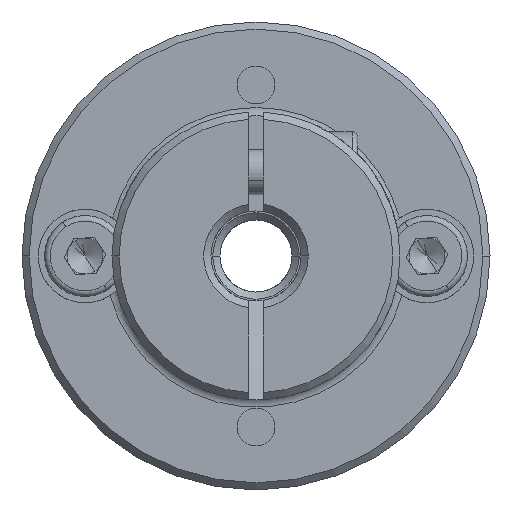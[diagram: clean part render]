
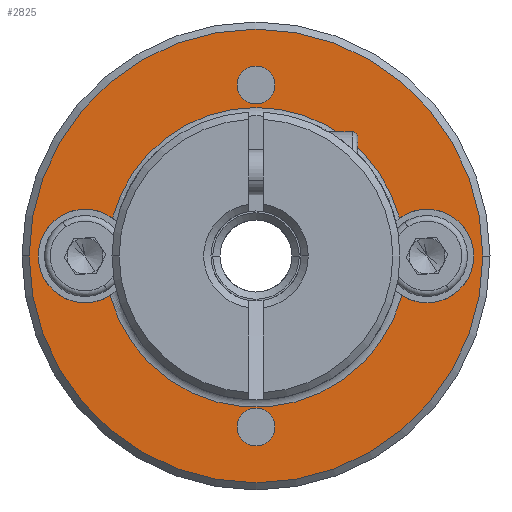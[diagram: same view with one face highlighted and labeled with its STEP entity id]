
A CAD part, front view. The second image highlights one B-rep face of the part: STEP entity #2825.
In plain terms, the highlighted planar face has unit normal (0, -1, 0).
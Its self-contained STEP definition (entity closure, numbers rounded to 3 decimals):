
#30 = ORIENTED_EDGE ( 'NONE', *, *, #3362, .T. ) ;
#54 = AXIS2_PLACEMENT_3D ( 'NONE', #17531, #11513, #8664 ) ;
#224 = CARTESIAN_POINT ( 'NONE',  ( -3.03, -8.355, 35.5 ) ) ;
#262 = CARTESIAN_POINT ( 'NONE',  ( -3.03, -8.355, 26. ) ) ;
#493 = DIRECTION ( 'NONE',  ( 1., 0., 0. ) ) ;
#526 = AXIS2_PLACEMENT_3D ( 'NONE', #262, #15209, #12058 ) ;
#640 = AXIS2_PLACEMENT_3D ( 'NONE', #12592, #17359, #14086 ) ;
#884 = VERTEX_POINT ( 'NONE', #6507 ) ;
#1531 = ORIENTED_EDGE ( 'NONE', *, *, #17809, .T. ) ;
#1580 = EDGE_LOOP ( 'NONE', ( #16222, #11632 ) ) ;
#1610 = ORIENTED_EDGE ( 'NONE', *, *, #15922, .T. ) ;
#1622 = ORIENTED_EDGE ( 'NONE', *, *, #11058, .T. ) ;
#1696 = DIRECTION ( 'NONE',  ( 0., 1., 0. ) ) ;
#2014 = CARTESIAN_POINT ( 'NONE',  ( 9.57, -8.355, 26. ) ) ;
#2025 = CIRCLE ( 'NONE', #54, 12.6 ) ;
#2134 = DIRECTION ( 'NONE',  ( 0., -1., 0. ) ) ;
#2212 = VERTEX_POINT ( 'NONE', #8005 ) ;
#2503 = FACE_BOUND ( 'NONE', #1580, .T. ) ;
#2734 = CARTESIAN_POINT ( 'NONE',  ( -3.03, -8.355, 26. ) ) ;
#2825 = ADVANCED_FACE ( 'NONE', ( #4862, #8827, #2503, #5321 ), #11609, .T. ) ;
#2955 = ORIENTED_EDGE ( 'NONE', *, *, #15836, .T. ) ;
#3352 = DIRECTION ( 'NONE',  ( 1., 0., 0. ) ) ;
#3362 = EDGE_CURVE ( 'NONE', #7028, #18003, #2025, .T. ) ;
#3623 = DIRECTION ( 'NONE',  ( 1., 0., 0. ) ) ;
#3739 = DIRECTION ( 'NONE',  ( 1., 0., 0. ) ) ;
#3756 = CARTESIAN_POINT ( 'NONE',  ( -3.03, -8.355, 16.5 ) ) ;
#4027 = CIRCLE ( 'NONE', #7335, 8.247 ) ;
#4164 = ORIENTED_EDGE ( 'NONE', *, *, #14730, .T. ) ;
#4496 = CIRCLE ( 'NONE', #8372, 2.6 ) ;
#4843 = CARTESIAN_POINT ( 'NONE',  ( -15.13, -8.355, 26. ) ) ;
#4862 = FACE_OUTER_BOUND ( 'NONE', #9758, .T. ) ;
#5107 = CIRCLE ( 'NONE', #17949, 2.6 ) ;
#5113 = EDGE_LOOP ( 'NONE', ( #18077, #9795 ) ) ;
#5321 = FACE_BOUND ( 'NONE', #5783, .T. ) ;
#5570 = CIRCLE ( 'NONE', #640, 1.05 ) ;
#5751 = DIRECTION ( 'NONE',  ( 1., 0., 0. ) ) ;
#5783 = EDGE_LOOP ( 'NONE', ( #19322, #1610, #1622, #2955, #1531, #4164 ) ) ;
#6100 = CARTESIAN_POINT ( 'NONE',  ( -4.08, -8.355, 35.5 ) ) ;
#6187 = VERTEX_POINT ( 'NONE', #18696 ) ;
#6305 = DIRECTION ( 'NONE',  ( 0., 1., 0. ) ) ;
#6507 = CARTESIAN_POINT ( 'NONE',  ( -11.138, -8.355, 23.804 ) ) ;
#6821 = AXIS2_PLACEMENT_3D ( 'NONE', #17333, #11132, #8403 ) ;
#6900 = VERTEX_POINT ( 'NONE', #9640 ) ;
#7028 = VERTEX_POINT ( 'NONE', #9957 ) ;
#7335 = AXIS2_PLACEMENT_3D ( 'NONE', #18411, #12636, #3739 ) ;
#7359 = EDGE_CURVE ( 'NONE', #13670, #16996, #12737, .T. ) ;
#7819 = DIRECTION ( 'NONE',  ( 1., 0., 0. ) ) ;
#8005 = CARTESIAN_POINT ( 'NONE',  ( -4.08, -8.355, 16.5 ) ) ;
#8203 = CARTESIAN_POINT ( 'NONE',  ( -3.03, -8.355, 26. ) ) ;
#8249 = DIRECTION ( 'NONE',  ( 0., 1., 0. ) ) ;
#8372 = AXIS2_PLACEMENT_3D ( 'NONE', #9000, #1696, #14995 ) ;
#8400 = VERTEX_POINT ( 'NONE', #12226 ) ;
#8403 = DIRECTION ( 'NONE',  ( 1., 0., 0. ) ) ;
#8487 = EDGE_CURVE ( 'NONE', #16996, #13670, #8757, .T. ) ;
#8664 = DIRECTION ( 'NONE',  ( 1., 0., 0. ) ) ;
#8757 = CIRCLE ( 'NONE', #6821, 1.05 ) ;
#8827 = FACE_BOUND ( 'NONE', #5113, .T. ) ;
#8921 = AXIS2_PLACEMENT_3D ( 'NONE', #2734, #14597, #5751 ) ;
#9000 = CARTESIAN_POINT ( 'NONE',  ( -12.53, -8.355, 26. ) ) ;
#9194 = AXIS2_PLACEMENT_3D ( 'NONE', #10731, #13776, #493 ) ;
#9221 = DIRECTION ( 'NONE',  ( 1., 0., 0. ) ) ;
#9443 = CARTESIAN_POINT ( 'NONE',  ( 5.078, -8.355, 23.804 ) ) ;
#9594 = CIRCLE ( 'NONE', #526, 8.4 ) ;
#9640 = CARTESIAN_POINT ( 'NONE',  ( -1.98, -8.355, 16.5 ) ) ;
#9758 = EDGE_LOOP ( 'NONE', ( #30, #12977 ) ) ;
#9795 = ORIENTED_EDGE ( 'NONE', *, *, #13373, .T. ) ;
#9957 = CARTESIAN_POINT ( 'NONE',  ( -15.63, -8.355, 26. ) ) ;
#9965 = VERTEX_POINT ( 'NONE', #9443 ) ;
#10053 = AXIS2_PLACEMENT_3D ( 'NONE', #8203, #2134, #3623 ) ;
#10731 = CARTESIAN_POINT ( 'NONE',  ( -12.53, -8.355, 26. ) ) ;
#11030 = AXIS2_PLACEMENT_3D ( 'NONE', #224, #6305, #9221 ) ;
#11058 = EDGE_CURVE ( 'NONE', #6187, #12556, #4027, .T. ) ;
#11132 = DIRECTION ( 'NONE',  ( 0., 1., 0. ) ) ;
#11311 = EDGE_CURVE ( 'NONE', #884, #13695, #4496, .T. ) ;
#11513 = DIRECTION ( 'NONE',  ( 0., -1., 0. ) ) ;
#11609 = PLANE ( 'NONE',  #8921 ) ;
#11632 = ORIENTED_EDGE ( 'NONE', *, *, #8487, .T. ) ;
#12058 = DIRECTION ( 'NONE',  ( 1., 0., 0. ) ) ;
#12226 = CARTESIAN_POINT ( 'NONE',  ( 9.07, -8.355, 26. ) ) ;
#12556 = VERTEX_POINT ( 'NONE', #17737 ) ;
#12592 = CARTESIAN_POINT ( 'NONE',  ( -3.03, -8.355, 16.5 ) ) ;
#12636 = DIRECTION ( 'NONE',  ( 0., 1., 0. ) ) ;
#12737 = CIRCLE ( 'NONE', #11030, 1.05 ) ;
#12977 = ORIENTED_EDGE ( 'NONE', *, *, #15434, .T. ) ;
#13161 = CIRCLE ( 'NONE', #13455, 1.05 ) ;
#13373 = EDGE_CURVE ( 'NONE', #6900, #2212, #5570, .T. ) ;
#13432 = CIRCLE ( 'NONE', #15593, 2.6 ) ;
#13455 = AXIS2_PLACEMENT_3D ( 'NONE', #3756, #8249, #18693 ) ;
#13670 = VERTEX_POINT ( 'NONE', #6100 ) ;
#13695 = VERTEX_POINT ( 'NONE', #4843 ) ;
#13743 = CARTESIAN_POINT ( 'NONE',  ( 6.47, -8.355, 26. ) ) ;
#13776 = DIRECTION ( 'NONE',  ( 0., 1., 0. ) ) ;
#14086 = DIRECTION ( 'NONE',  ( 1., 0., 0. ) ) ;
#14597 = DIRECTION ( 'NONE',  ( 0., -1., 0. ) ) ;
#14730 = EDGE_CURVE ( 'NONE', #9965, #884, #9594, .T. ) ;
#14995 = DIRECTION ( 'NONE',  ( 1., 0., 0. ) ) ;
#15209 = DIRECTION ( 'NONE',  ( 0., 1., 0. ) ) ;
#15434 = EDGE_CURVE ( 'NONE', #18003, #7028, #18196, .T. ) ;
#15593 = AXIS2_PLACEMENT_3D ( 'NONE', #13743, #18204, #7819 ) ;
#15836 = EDGE_CURVE ( 'NONE', #12556, #8400, #5107, .T. ) ;
#15922 = EDGE_CURVE ( 'NONE', #13695, #6187, #19121, .T. ) ;
#16222 = ORIENTED_EDGE ( 'NONE', *, *, #7359, .T. ) ;
#16568 = CARTESIAN_POINT ( 'NONE',  ( -1.98, -8.355, 35.5 ) ) ;
#16669 = DIRECTION ( 'NONE',  ( 0., 1., 0. ) ) ;
#16912 = CARTESIAN_POINT ( 'NONE',  ( 6.47, -8.355, 26. ) ) ;
#16996 = VERTEX_POINT ( 'NONE', #16568 ) ;
#17333 = CARTESIAN_POINT ( 'NONE',  ( -3.03, -8.355, 35.5 ) ) ;
#17359 = DIRECTION ( 'NONE',  ( 0., 1., 0. ) ) ;
#17531 = CARTESIAN_POINT ( 'NONE',  ( -3.03, -8.355, 26. ) ) ;
#17737 = CARTESIAN_POINT ( 'NONE',  ( 4.944, -8.355, 28.105 ) ) ;
#17809 = EDGE_CURVE ( 'NONE', #8400, #9965, #13432, .T. ) ;
#17949 = AXIS2_PLACEMENT_3D ( 'NONE', #16912, #16669, #3352 ) ;
#18003 = VERTEX_POINT ( 'NONE', #2014 ) ;
#18077 = ORIENTED_EDGE ( 'NONE', *, *, #18617, .T. ) ;
#18196 = CIRCLE ( 'NONE', #10053, 12.6 ) ;
#18204 = DIRECTION ( 'NONE',  ( 0., 1., 0. ) ) ;
#18411 = CARTESIAN_POINT ( 'NONE',  ( -3.03, -8.355, 26. ) ) ;
#18617 = EDGE_CURVE ( 'NONE', #2212, #6900, #13161, .T. ) ;
#18693 = DIRECTION ( 'NONE',  ( 1., 0., 0. ) ) ;
#18696 = CARTESIAN_POINT ( 'NONE',  ( -11.004, -8.355, 28.105 ) ) ;
#19121 = CIRCLE ( 'NONE', #9194, 2.6 ) ;
#19322 = ORIENTED_EDGE ( 'NONE', *, *, #11311, .T. ) ;
